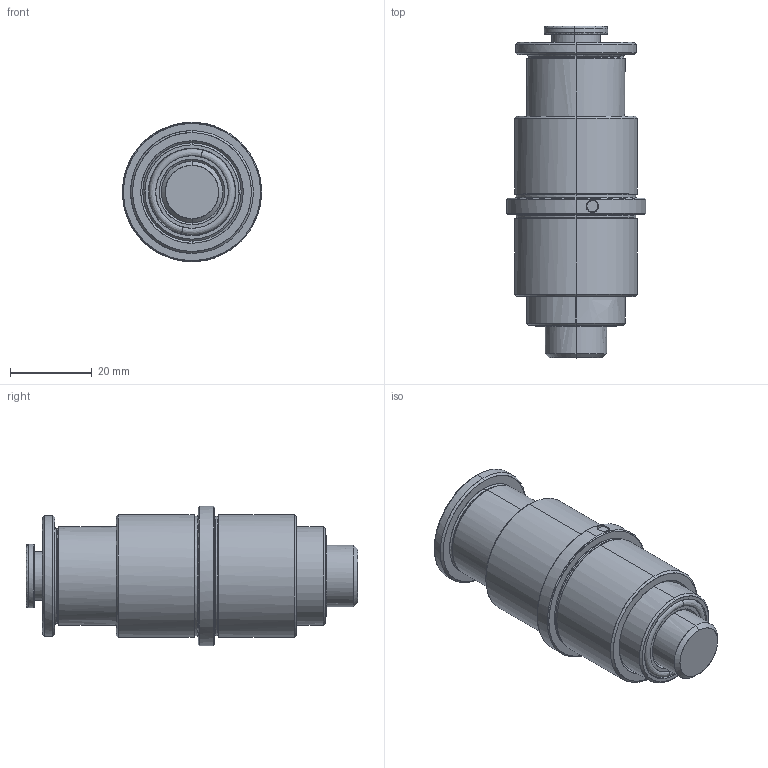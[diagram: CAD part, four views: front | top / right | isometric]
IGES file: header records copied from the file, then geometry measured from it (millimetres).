
Start section: START RECORD GO HERE.
Global section: file name: ae082430.igs; native system: DASSAULT SYSTEMES CATIA V5 R20 - www.3ds.com; preprocessor: CATIA Version 5 Release 20 ; author: Utente; organization: NB04-ASUS; date: 20201103.203004; units: millimetre
Bounding box: 34 x 81 x 34 mm (x, y, z)
Surface area: 26837.1 mm2 (no closed solid volume)
Topology: 0 solids, 0 shells, 795 faces, 3964 edges, 3896 vertices
Faces by surface type: revolution 467, plane 189, bspline 139
